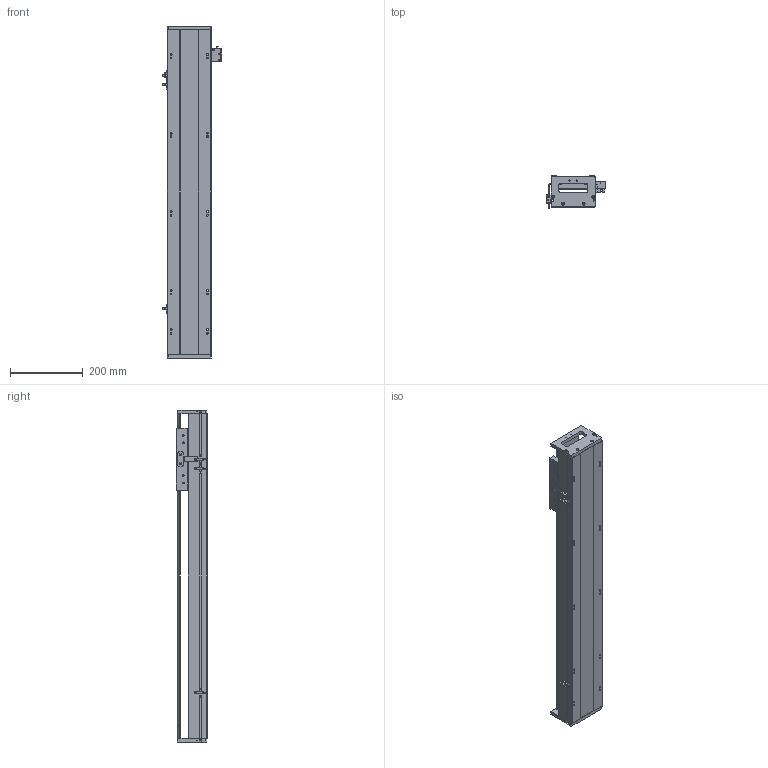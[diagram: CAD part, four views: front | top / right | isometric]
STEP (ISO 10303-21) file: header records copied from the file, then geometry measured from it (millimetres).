
FILE_DESCRIPTION (( 'STEP AP203' ), '1' );
FILE_NAME ('SKR12S-C1-S642（简）.STEP', '2022-09-26T02:43:02', ( '' ), ( '' ), 'SwSTEP 2.0', 'SolidWorks 2018', '' );
FILE_SCHEMA (( 'CONFIG_CONTROL_DESIGN' ));
Length unit declared in the file: millimetre
Products named in the file (8): SIKO棠掑; SKR12菁釱-C1-S642(潠); 棠掑假蚾輸; SKR12S-C1-S642（简）; SKR12滑台-170L（简）; SKR12耜啣; EE-SX672; 覜茼え
Assembly tree (10 placements, depth 2):
  SKR12S-C1-S642（简）
    SKR12菁釱-C1-S642(潠)
    SKR12滑台-170L（简）
    SKR12耜啣  x2
    棠掑假蚾輸
    SIKO棠掑
    覜茼え
    EE-SX672  x3
Bounding box: 162.7 x 87.3 x 912 mm (x, y, z)
Volume: 4205443 mm3; surface area: 697197.9 mm2
Topology: 11 solids, 11 shells, 960 faces, 2547 edges, 1611 vertices
Faces by surface type: cylinder 433, plane 397, cone 130
Entity records: 25875 total; most frequent: CARTESIAN_POINT 5067, DIRECTION 4309, ORIENTED_EDGE 4066, EDGE_CURVE 2033, AXIS2_PLACEMENT_3D 1589, VERTEX_POINT 1315, VECTOR 1131, LINE 1131
